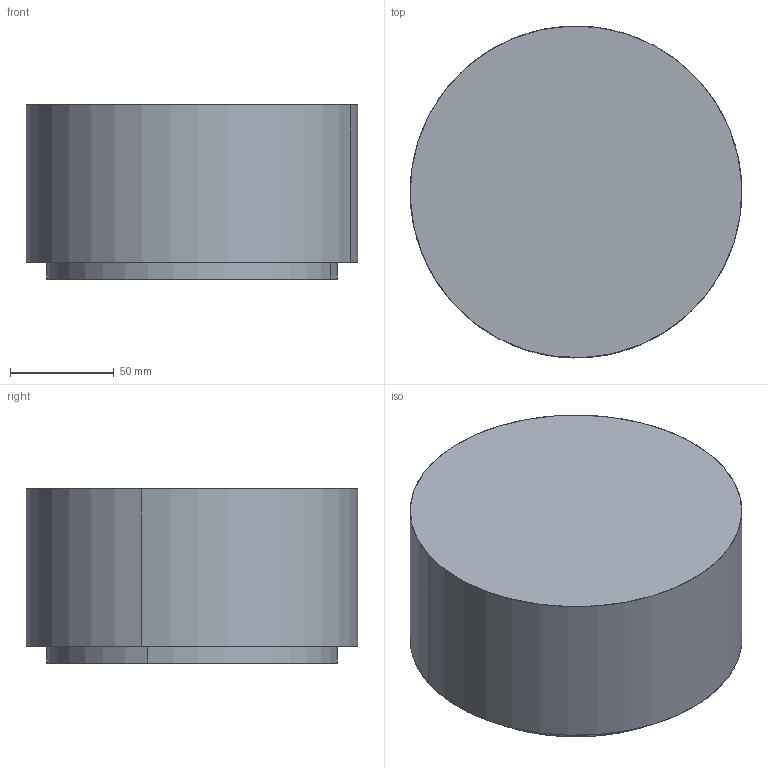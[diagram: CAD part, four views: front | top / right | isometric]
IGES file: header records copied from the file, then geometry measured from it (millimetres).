
Start section: SolidWorks IGES file using analytic representation for surfaces
Global section: file name: C:\Documents and Settings\PHILIPPE\Mes documents\DAO-FAO\esprit\Machines\Tour euroturn gris 2\Fichiers-sw2006\Mandrin-euroturn-gris-2.IGS; native system: SolidWorks 2006 by SolidWorks Corporation; preprocessor: SolidWorks 2006 by SolidWorks Corporation; author: PHILIPPE; date: 070519.123046; units: millimetre
Bounding box: 159.98 x 159.98 x 84 mm (x, y, z)
Surface area: 81932.8 mm2 (no closed solid volume)
Topology: 0 solids, 0 shells, 7 faces, 272 edges, 272 vertices
Faces by surface type: revolution 4, bspline 3
